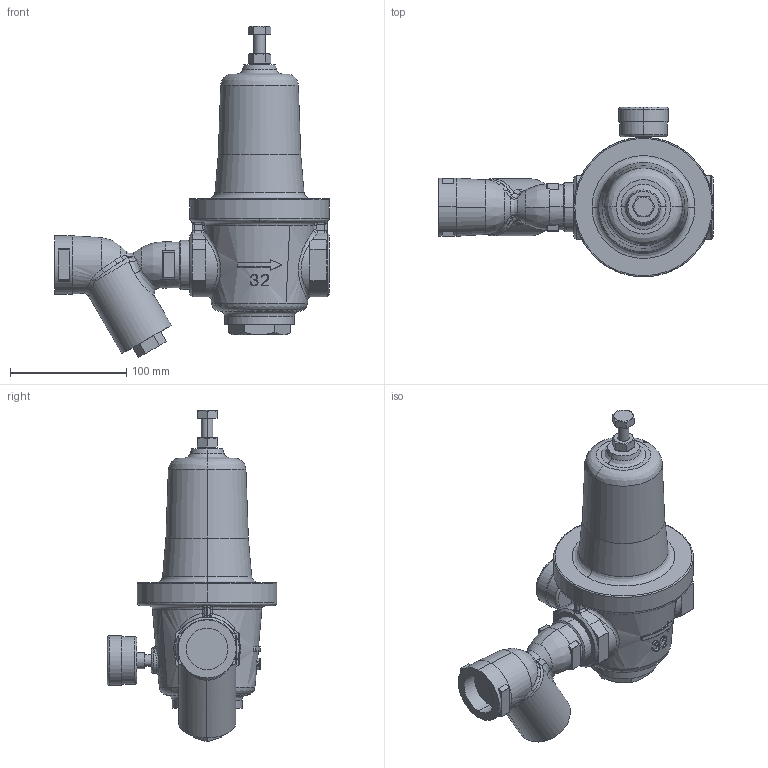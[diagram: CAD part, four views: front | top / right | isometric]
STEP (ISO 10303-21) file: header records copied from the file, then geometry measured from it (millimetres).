
FILE_DESCRIPTION( (''), '2;1');
FILE_NAME ('PC1276.1724.GD-24GS 32A_17146.stp','2025-12-10T13:18:20',(''),(''),'spGate 20.6.3 (****-****-****-****)','','');
FILE_SCHEMA (('AUTOMOTIVE_DESIGN'));
Length unit declared in the file: millimetre
Products named in the file (3): Assembly; GD-24　32A　キャップ; GD-24　32A
Assembly tree (2 placements, depth 2):
  Assembly
    GD-24　32A　キャップ
    GD-24　32A
Bounding box: 236 x 146 x 284.67 mm (x, y, z)
Volume: 1540449.8 mm3; surface area: 119067.3 mm2
Topology: 2 solids, 2 shells, 490 faces, 1172 edges, 660 vertices
Faces by surface type: bspline 192, cylinder 142, plane 117, sphere 39
Entity records: 30634 total; most frequent: CARTESIAN_POINT 11548, ORIENTED_EDGE 2248, DIRECTION 1830, COLOUR_RGB 1616, PRESENTATION_STYLE_ASSIGNMENT 1616, STYLED_ITEM 1616, EDGE_CURVE 1124, DRAUGHTING_PRE_DEFINED_CURVE_FONT 1124
